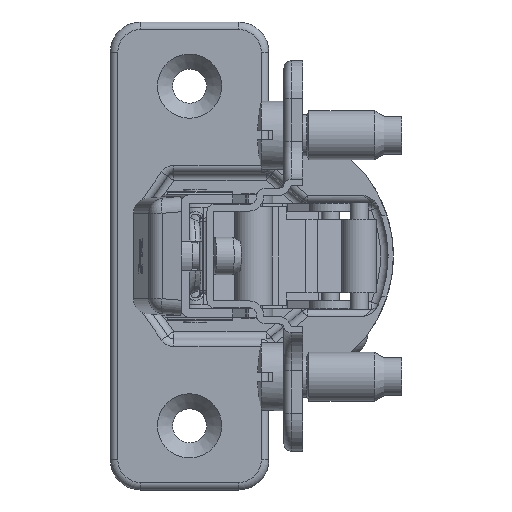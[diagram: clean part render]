
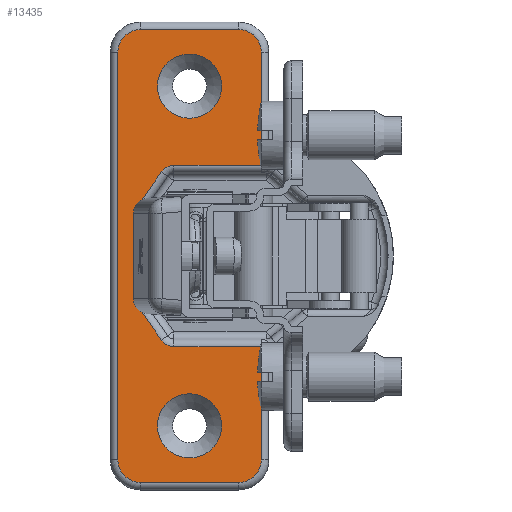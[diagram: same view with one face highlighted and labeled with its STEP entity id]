
A CAD part, left-side view. The second image highlights one B-rep face of the part: STEP entity #13435.
In plain terms, the highlighted planar face has unit normal (-1, 0, 0) as drawn and (0.246, 0.969, 0) by its records, which use the part's own axes.
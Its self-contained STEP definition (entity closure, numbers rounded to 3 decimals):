
#333=FACE_BOUND('',#2517,.T.);
#334=FACE_BOUND('',#2518,.T.);
#945=CIRCLE('',#14260,2.);
#949=CIRCLE('',#14266,2.);
#953=CIRCLE('',#14272,2.);
#957=CIRCLE('',#14278,2.);
#996=CIRCLE('',#14355,3.);
#1000=CIRCLE('',#14361,3.);
#1004=CIRCLE('',#14367,3.);
#1007=CIRCLE('',#14372,3.);
#1016=CIRCLE('',#14392,4.25);
#1017=CIRCLE('',#14393,4.25);
#1703=FACE_OUTER_BOUND('',#2516,.T.);
#2516=EDGE_LOOP('',(#9121,#9122,#9123,#9124,#9125,#9126,#9127,#9128,#9129,
#9130,#9131,#9132,#9133,#9134,#9135,#9136,#9137,#9138));
#2517=EDGE_LOOP('',(#9139));
#2518=EDGE_LOOP('',(#9140));
#3405=LINE('',#20178,#4469);
#3406=LINE('',#20189,#4470);
#3408=LINE('',#20201,#4472);
#3410=LINE('',#20213,#4474);
#3412=LINE('',#20225,#4476);
#3421=LINE('',#20294,#4485);
#3464=LINE('',#20437,#4528);
#3467=LINE('',#20452,#4531);
#3469=LINE('',#20464,#4533);
#3471=LINE('',#20476,#4535);
#4469=VECTOR('',#15980,11.578);
#4470=VECTOR('',#15993,5.268);
#4472=VECTOR('',#16007,11.369);
#4474=VECTOR('',#16021,5.268);
#4476=VECTOR('',#16035,11.578);
#4485=VECTOR('',#16072,15.);
#4528=VECTOR('',#16225,15.);
#4531=VECTOR('',#16242,13.);
#4533=VECTOR('',#16256,54.);
#4535=VECTOR('',#16270,13.);
#5559=VERTEX_POINT('',#20171);
#5562=VERTEX_POINT('',#20176);
#5564=VERTEX_POINT('',#20181);
#5566=VERTEX_POINT('',#20187);
#5568=VERTEX_POINT('',#20193);
#5570=VERTEX_POINT('',#20199);
#5572=VERTEX_POINT('',#20205);
#5574=VERTEX_POINT('',#20211);
#5576=VERTEX_POINT('',#20217);
#5578=VERTEX_POINT('',#20223);
#5586=VERTEX_POINT('',#20292);
#5627=VERTEX_POINT('',#20436);
#5629=VERTEX_POINT('',#20442);
#5631=VERTEX_POINT('',#20448);
#5633=VERTEX_POINT('',#20454);
#5635=VERTEX_POINT('',#20460);
#5637=VERTEX_POINT('',#20466);
#5639=VERTEX_POINT('',#20472);
#5653=VERTEX_POINT('',#20525);
#5654=VERTEX_POINT('',#20527);
#6837=EDGE_CURVE('',#5562,#5559,#3405,.T.);
#6839=EDGE_CURVE('',#5564,#5562,#945,.T.);
#6842=EDGE_CURVE('',#5566,#5564,#3406,.T.);
#6845=EDGE_CURVE('',#5568,#5566,#949,.T.);
#6848=EDGE_CURVE('',#5570,#5568,#3408,.T.);
#6851=EDGE_CURVE('',#5572,#5570,#953,.T.);
#6854=EDGE_CURVE('',#5574,#5572,#3410,.T.);
#6857=EDGE_CURVE('',#5576,#5574,#957,.T.);
#6860=EDGE_CURVE('',#5578,#5576,#3412,.T.);
#6878=EDGE_CURVE('',#5586,#5578,#3421,.T.);
#6948=EDGE_CURVE('',#5559,#5627,#3464,.T.);
#6953=EDGE_CURVE('',#5627,#5629,#996,.T.);
#6956=EDGE_CURVE('',#5629,#5631,#3467,.T.);
#6959=EDGE_CURVE('',#5631,#5633,#1000,.T.);
#6962=EDGE_CURVE('',#5633,#5635,#3469,.T.);
#6965=EDGE_CURVE('',#5635,#5637,#1004,.T.);
#6968=EDGE_CURVE('',#5637,#5639,#3471,.T.);
#6970=EDGE_CURVE('',#5639,#5586,#1007,.T.);
#6993=EDGE_CURVE('',#5653,#5653,#1016,.T.);
#6994=EDGE_CURVE('',#5654,#5654,#1017,.T.);
#9121=ORIENTED_EDGE('',*,*,#6860,.F.);
#9122=ORIENTED_EDGE('',*,*,#6878,.F.);
#9123=ORIENTED_EDGE('',*,*,#6970,.F.);
#9124=ORIENTED_EDGE('',*,*,#6968,.F.);
#9125=ORIENTED_EDGE('',*,*,#6965,.F.);
#9126=ORIENTED_EDGE('',*,*,#6962,.F.);
#9127=ORIENTED_EDGE('',*,*,#6959,.F.);
#9128=ORIENTED_EDGE('',*,*,#6956,.F.);
#9129=ORIENTED_EDGE('',*,*,#6953,.F.);
#9130=ORIENTED_EDGE('',*,*,#6948,.F.);
#9131=ORIENTED_EDGE('',*,*,#6837,.F.);
#9132=ORIENTED_EDGE('',*,*,#6839,.F.);
#9133=ORIENTED_EDGE('',*,*,#6842,.F.);
#9134=ORIENTED_EDGE('',*,*,#6845,.F.);
#9135=ORIENTED_EDGE('',*,*,#6848,.F.);
#9136=ORIENTED_EDGE('',*,*,#6851,.F.);
#9137=ORIENTED_EDGE('',*,*,#6854,.F.);
#9138=ORIENTED_EDGE('',*,*,#6857,.F.);
#9139=ORIENTED_EDGE('',*,*,#6993,.T.);
#9140=ORIENTED_EDGE('',*,*,#6994,.T.);
#12624=PLANE('',#14391);
#13435=ADVANCED_FACE('',(#1703,#333,#334),#12624,.T.);
#14260=AXIS2_PLACEMENT_3D('',#20183,#15985,#15986);
#14266=AXIS2_PLACEMENT_3D('',#20195,#15999,#16000);
#14272=AXIS2_PLACEMENT_3D('',#20207,#16013,#16014);
#14278=AXIS2_PLACEMENT_3D('',#20219,#16027,#16028);
#14355=AXIS2_PLACEMENT_3D('',#20446,#16235,#16236);
#14361=AXIS2_PLACEMENT_3D('',#20458,#16249,#16250);
#14367=AXIS2_PLACEMENT_3D('',#20470,#16263,#16264);
#14372=AXIS2_PLACEMENT_3D('',#20479,#16275,#16276);
#14391=AXIS2_PLACEMENT_3D('',#20524,#16327,#16328);
#14392=AXIS2_PLACEMENT_3D('',#20526,#16329,#16330);
#14393=AXIS2_PLACEMENT_3D('',#20528,#16331,#16332);
#15980=DIRECTION('',(-0.969,0.246,0.));
#15985=DIRECTION('center_axis',(0.246,0.969,0.));
#15986=DIRECTION('ref_axis',(0.448,-0.114,-0.887));
#15993=DIRECTION('',(-0.556,0.141,-0.819));
#15999=DIRECTION('center_axis',(0.246,0.969,0.));
#16000=DIRECTION('ref_axis',(0.924,-0.235,-0.301));
#16007=DIRECTION('',(0.,0.,-1.));
#16013=DIRECTION('center_axis',(0.246,0.969,0.));
#16014=DIRECTION('ref_axis',(0.924,-0.235,0.301));
#16021=DIRECTION('',(0.556,-0.141,-0.819));
#16027=DIRECTION('center_axis',(0.246,0.969,0.));
#16028=DIRECTION('ref_axis',(0.448,-0.114,0.887));
#16035=DIRECTION('',(0.969,-0.246,0.));
#16072=DIRECTION('',(0.,0.,-1.));
#16225=DIRECTION('',(0.,0.,-1.));
#16235=DIRECTION('center_axis',(-0.246,-0.969,0.));
#16236=DIRECTION('ref_axis',(-0.685,0.174,-0.707));
#16242=DIRECTION('',(0.969,-0.246,0.));
#16249=DIRECTION('center_axis',(-0.246,-0.969,0.));
#16250=DIRECTION('ref_axis',(0.685,-0.174,-0.707));
#16256=DIRECTION('',(0.,0.,1.));
#16263=DIRECTION('center_axis',(-0.246,-0.969,0.));
#16264=DIRECTION('ref_axis',(0.685,-0.174,0.707));
#16270=DIRECTION('',(-0.969,0.246,0.));
#16275=DIRECTION('center_axis',(-0.246,-0.969,0.));
#16276=DIRECTION('ref_axis',(-0.685,0.174,0.707));
#16327=DIRECTION('center_axis',(0.246,0.969,0.));
#16328=DIRECTION('ref_axis',(-0.969,0.246,0.));
#16329=DIRECTION('center_axis',(-0.246,-0.969,0.));
#16330=DIRECTION('ref_axis',(0.969,-0.246,0.));
#16331=DIRECTION('center_axis',(-0.246,-0.969,0.));
#16332=DIRECTION('ref_axis',(0.969,-0.246,0.));
#20171=CARTESIAN_POINT('',(79.095,18.452,-12.));
#20176=CARTESIAN_POINT('',(90.316,15.598,-12.));
#20178=CARTESIAN_POINT('',(88.302,16.111,-12.));
#20181=CARTESIAN_POINT('',(91.904,15.195,-11.147));
#20183=CARTESIAN_POINT('Origin',(90.316,15.598,-10.));
#20187=CARTESIAN_POINT('',(94.832,14.45,-6.832));
#20189=CARTESIAN_POINT('',(95.379,14.311,-6.027));
#20193=CARTESIAN_POINT('',(95.183,14.361,-5.685));
#20195=CARTESIAN_POINT('Origin',(93.244,14.854,-5.685));
#20199=CARTESIAN_POINT('',(95.183,14.361,5.685));
#20201=CARTESIAN_POINT('',(95.183,14.361,-3.));
#20205=CARTESIAN_POINT('',(94.832,14.45,6.832));
#20207=CARTESIAN_POINT('Origin',(93.244,14.854,5.685));
#20211=CARTESIAN_POINT('',(91.904,15.195,11.147));
#20213=CARTESIAN_POINT('',(97.075,13.88,3.527));
#20217=CARTESIAN_POINT('',(90.316,15.598,12.));
#20219=CARTESIAN_POINT('Origin',(90.316,15.598,10.));
#20223=CARTESIAN_POINT('',(79.095,18.452,12.));
#20225=CARTESIAN_POINT('',(94.649,14.497,12.));
#20292=CARTESIAN_POINT('',(79.095,18.452,27.));
#20294=CARTESIAN_POINT('',(79.095,18.452,0.));
#20436=CARTESIAN_POINT('',(79.095,18.452,-27.));
#20437=CARTESIAN_POINT('',(79.095,18.452,0.));
#20442=CARTESIAN_POINT('',(82.002,17.712,-30.));
#20446=CARTESIAN_POINT('Origin',(82.002,17.712,-27.));
#20448=CARTESIAN_POINT('',(94.601,14.509,-30.));
#20452=CARTESIAN_POINT('',(89.378,15.837,-30.));
#20454=CARTESIAN_POINT('',(97.509,13.77,-27.));
#20458=CARTESIAN_POINT('Origin',(94.601,14.509,-27.));
#20460=CARTESIAN_POINT('',(97.509,13.77,27.));
#20464=CARTESIAN_POINT('',(97.509,13.77,0.));
#20466=CARTESIAN_POINT('',(94.601,14.509,30.));
#20470=CARTESIAN_POINT('Origin',(94.601,14.509,27.));
#20472=CARTESIAN_POINT('',(82.002,17.712,30.));
#20476=CARTESIAN_POINT('',(89.378,15.837,30.));
#20479=CARTESIAN_POINT('Origin',(82.002,17.712,27.));
#20524=CARTESIAN_POINT('Origin',(98.478,13.523,0.));
#20525=CARTESIAN_POINT('',(92.421,15.063,22.5));
#20526=CARTESIAN_POINT('Origin',(88.302,16.111,22.5));
#20527=CARTESIAN_POINT('',(92.421,15.063,-22.5));
#20528=CARTESIAN_POINT('Origin',(88.302,16.111,-22.5));
